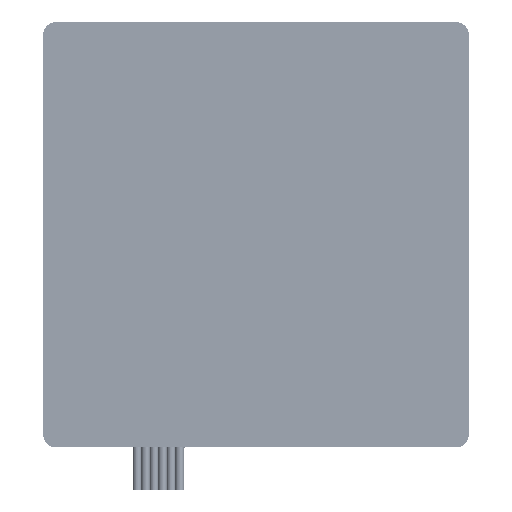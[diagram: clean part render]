
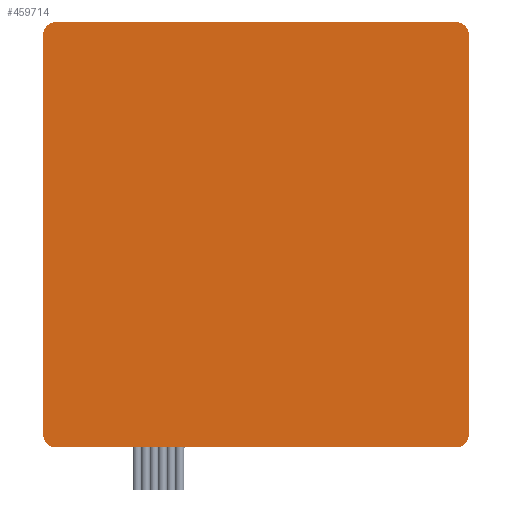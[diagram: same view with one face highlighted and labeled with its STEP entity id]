
A CAD part, front view. The second image highlights one B-rep face of the part: STEP entity #459714.
In plain terms, the highlighted planar face has unit normal (0, -1, 0).
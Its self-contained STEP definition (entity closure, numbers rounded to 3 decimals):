
#5943 = CIRCLE ( 'NONE', #268319, 3. ) ;
#5953 = CIRCLE ( 'NONE', #65973, 3. ) ;
#7816 = CARTESIAN_POINT ( 'NONE',  ( -50., -10., -47. ) ) ;
#11885 = EDGE_CURVE ( 'NONE', #273728, #306401, #5953, .T. ) ;
#30901 = LINE ( 'NONE', #317255, #110325 ) ;
#33296 = CARTESIAN_POINT ( 'NONE',  ( -50., -10., 50. ) ) ;
#34618 = DIRECTION ( 'NONE',  ( -1., 0., 0. ) ) ;
#37883 = LINE ( 'NONE', #33296, #57840 ) ;
#46551 = AXIS2_PLACEMENT_3D ( 'NONE', #239005, #346943, #382175 ) ;
#51329 = VERTEX_POINT ( 'NONE', #90046 ) ;
#55092 = LINE ( 'NONE', #160700, #136771 ) ;
#56876 = CARTESIAN_POINT ( 'NONE',  ( 47., -10., 47. ) ) ;
#56929 = VERTEX_POINT ( 'NONE', #187032 ) ;
#57840 = VECTOR ( 'NONE', #277504, 1000. ) ;
#62234 = EDGE_CURVE ( 'NONE', #102801, #227780, #5943, .T. ) ;
#65973 = AXIS2_PLACEMENT_3D ( 'NONE', #56876, #200008, #270468 ) ;
#67635 = EDGE_LOOP ( 'NONE', ( #80870, #134281, #76680, #318579, #452957, #273569, #246816, #94666 ) ) ;
#69828 = FACE_OUTER_BOUND ( 'NONE', #67635, .T. ) ;
#76680 = ORIENTED_EDGE ( 'NONE', *, *, #200883, .T. ) ;
#80870 = ORIENTED_EDGE ( 'NONE', *, *, #414791, .T. ) ;
#90046 = CARTESIAN_POINT ( 'NONE',  ( -50., -10., 47. ) ) ;
#94666 = ORIENTED_EDGE ( 'NONE', *, *, #11885, .T. ) ;
#98518 = DIRECTION ( 'NONE',  ( 0., -1., 0. ) ) ;
#102801 = VERTEX_POINT ( 'NONE', #424585 ) ;
#107952 = CIRCLE ( 'NONE', #362581, 3. ) ;
#110325 = VECTOR ( 'NONE', #458077, 1000. ) ;
#115473 = EDGE_CURVE ( 'NONE', #388039, #319241, #121277, .T. ) ;
#120885 = CARTESIAN_POINT ( 'NONE',  ( -47., -10., -50. ) ) ;
#121277 = CIRCLE ( 'NONE', #46551, 3. ) ;
#134281 = ORIENTED_EDGE ( 'NONE', *, *, #278628, .T. ) ;
#136771 = VECTOR ( 'NONE', #235830, 1000. ) ;
#149480 = EDGE_CURVE ( 'NONE', #319241, #102801, #30901, .T. ) ;
#149767 = VECTOR ( 'NONE', #424095, 1000. ) ;
#160700 = CARTESIAN_POINT ( 'NONE',  ( 50., -10., 50. ) ) ;
#172382 = CARTESIAN_POINT ( 'NONE',  ( 47., -10., -47. ) ) ;
#175431 = PLANE ( 'NONE',  #308801 ) ;
#187032 = CARTESIAN_POINT ( 'NONE',  ( -47., -10., 50. ) ) ;
#200008 = DIRECTION ( 'NONE',  ( 0., -1., 0. ) ) ;
#200415 = CARTESIAN_POINT ( 'NONE',  ( 47., -10., 50. ) ) ;
#200883 = EDGE_CURVE ( 'NONE', #51329, #388039, #37883, .T. ) ;
#227780 = VERTEX_POINT ( 'NONE', #358176 ) ;
#235830 = DIRECTION ( 'NONE',  ( -1., 0., 0. ) ) ;
#239005 = CARTESIAN_POINT ( 'NONE',  ( -47., -10., -47. ) ) ;
#246816 = ORIENTED_EDGE ( 'NONE', *, *, #274929, .T. ) ;
#268319 = AXIS2_PLACEMENT_3D ( 'NONE', #172382, #315618, #458768 ) ;
#270468 = DIRECTION ( 'NONE',  ( -1., 0., 0. ) ) ;
#273569 = ORIENTED_EDGE ( 'NONE', *, *, #62234, .T. ) ;
#273728 = VERTEX_POINT ( 'NONE', #364380 ) ;
#274929 = EDGE_CURVE ( 'NONE', #227780, #273728, #351395, .T. ) ;
#277504 = DIRECTION ( 'NONE',  ( 0., 0., -1. ) ) ;
#278628 = EDGE_CURVE ( 'NONE', #56929, #51329, #107952, .T. ) ;
#280955 = CARTESIAN_POINT ( 'NONE',  ( 50., -10., 50. ) ) ;
#306401 = VERTEX_POINT ( 'NONE', #200415 ) ;
#308801 = AXIS2_PLACEMENT_3D ( 'NONE', #382149, #461795, #34618 ) ;
#315618 = DIRECTION ( 'NONE',  ( 0., -1., 0. ) ) ;
#317255 = CARTESIAN_POINT ( 'NONE',  ( 50., -10., -50. ) ) ;
#318579 = ORIENTED_EDGE ( 'NONE', *, *, #115473, .T. ) ;
#319241 = VERTEX_POINT ( 'NONE', #120885 ) ;
#340346 = DIRECTION ( 'NONE',  ( -1., 0., 0. ) ) ;
#346943 = DIRECTION ( 'NONE',  ( 0., -1., 0. ) ) ;
#351395 = LINE ( 'NONE', #280955, #149767 ) ;
#358176 = CARTESIAN_POINT ( 'NONE',  ( 50., -10., -47. ) ) ;
#362581 = AXIS2_PLACEMENT_3D ( 'NONE', #420013, #98518, #340346 ) ;
#364380 = CARTESIAN_POINT ( 'NONE',  ( 50., -10., 47. ) ) ;
#382149 = CARTESIAN_POINT ( 'NONE',  ( 0., -10., 0. ) ) ;
#382175 = DIRECTION ( 'NONE',  ( -1., 0., 0. ) ) ;
#388039 = VERTEX_POINT ( 'NONE', #7816 ) ;
#414791 = EDGE_CURVE ( 'NONE', #306401, #56929, #55092, .T. ) ;
#420013 = CARTESIAN_POINT ( 'NONE',  ( -47., -10., 47. ) ) ;
#424095 = DIRECTION ( 'NONE',  ( 0., 0., 1. ) ) ;
#424585 = CARTESIAN_POINT ( 'NONE',  ( 47., -10., -50. ) ) ;
#452957 = ORIENTED_EDGE ( 'NONE', *, *, #149480, .T. ) ;
#458077 = DIRECTION ( 'NONE',  ( 1., 0., 0. ) ) ;
#458768 = DIRECTION ( 'NONE',  ( -1., 0., 0. ) ) ;
#459714 = ADVANCED_FACE ( 'NONE', ( #69828 ), #175431, .F. ) ;
#461795 = DIRECTION ( 'NONE',  ( 0., 1., 0. ) ) ;
